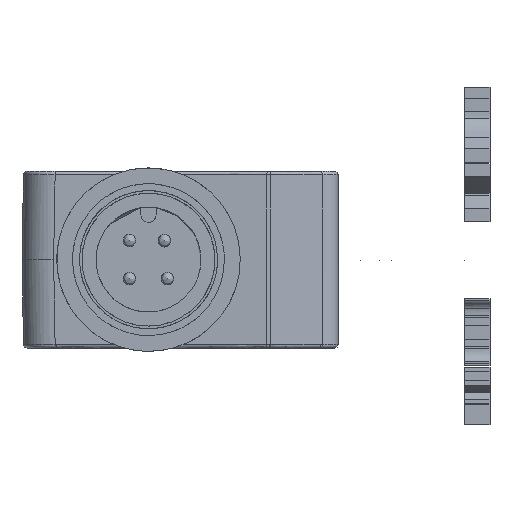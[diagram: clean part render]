
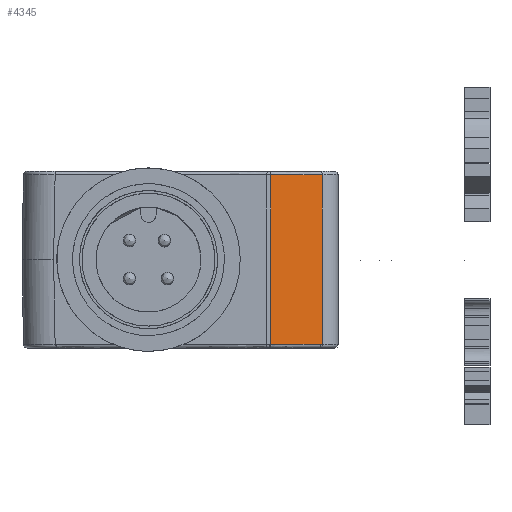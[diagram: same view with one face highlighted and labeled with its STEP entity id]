
A CAD part, front view. The second image highlights one B-rep face of the part: STEP entity #4345.
In plain terms, the highlighted free-form (B-spline) face has degree [1, 1] with [2, 2] control points.
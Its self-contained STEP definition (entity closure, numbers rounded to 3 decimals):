
#3958=B_SPLINE_SURFACE_WITH_KNOTS('',1,1,((#17616,#17617),(#17618,#17619)),
 .UNSPECIFIED.,.F.,.F.,.F.,(2,2),(2,2),(0.,1.),(0.,1.),.UNSPECIFIED.);
#4345=ADVANCED_FACE('',(#5077),#3958,.T.);
#5077=FACE_OUTER_BOUND('',#5551,.T.);
#5551=EDGE_LOOP('',(#7854,#7855,#7856,#7857));
#6192=B_SPLINE_CURVE_WITH_KNOTS('',1,(#16690,#16691),.UNSPECIFIED.,.F.,
 .F.,(2,2),(0.,1.),.UNSPECIFIED.);
#6196=B_SPLINE_CURVE_WITH_KNOTS('',1,(#16725,#16726),.UNSPECIFIED.,.F.,
 .F.,(2,2),(0.,1.),.UNSPECIFIED.);
#6215=B_SPLINE_CURVE_WITH_KNOTS('',1,(#17202,#17203),.UNSPECIFIED.,.F.,
 .F.,(2,2),(0.,1.),.UNSPECIFIED.);
#6259=B_SPLINE_CURVE_WITH_KNOTS('',1,(#17614,#17615),.UNSPECIFIED.,.F.,
 .F.,(2,2),(0.,1.),.UNSPECIFIED.);
#7854=ORIENTED_EDGE('',*,*,#10349,.F.);
#7855=ORIENTED_EDGE('',*,*,#10455,.T.);
#7856=ORIENTED_EDGE('',*,*,#10395,.F.);
#7857=ORIENTED_EDGE('',*,*,#10344,.F.);
#9355=VERTEX_POINT('',#16685);
#9356=VERTEX_POINT('',#16689);
#9360=VERTEX_POINT('',#16724);
#9387=VERTEX_POINT('',#17204);
#10344=EDGE_CURVE('',#9356,#9355,#6192,.T.);
#10349=EDGE_CURVE('',#9360,#9356,#6196,.T.);
#10395=EDGE_CURVE('',#9355,#9387,#6215,.T.);
#10455=EDGE_CURVE('',#9360,#9387,#6259,.T.);
#16685=CARTESIAN_POINT('',(-8.065,36.63,-6.99));
#16689=CARTESIAN_POINT('',(-8.065,36.63,6.41));
#16690=CARTESIAN_POINT('',(-8.065,36.63,6.41));
#16691=CARTESIAN_POINT('',(-8.065,36.63,-6.99));
#16724=CARTESIAN_POINT('',(-12.127,36.002,6.41));
#16725=CARTESIAN_POINT('',(-12.127,36.002,6.41));
#16726=CARTESIAN_POINT('',(-8.065,36.63,6.41));
#17202=CARTESIAN_POINT('',(-8.065,36.63,-6.99));
#17203=CARTESIAN_POINT('',(-12.127,36.002,-6.99));
#17204=CARTESIAN_POINT('',(-12.127,36.002,-6.99));
#17614=CARTESIAN_POINT('',(-12.127,36.002,6.41));
#17615=CARTESIAN_POINT('',(-12.127,36.002,-6.99));
#17616=CARTESIAN_POINT('',(-12.294,35.977,-7.29));
#17617=CARTESIAN_POINT('',(-12.294,35.977,7.431));
#17618=CARTESIAN_POINT('',(-6.794,36.827,-7.29));
#17619=CARTESIAN_POINT('',(-6.794,36.827,7.431));
